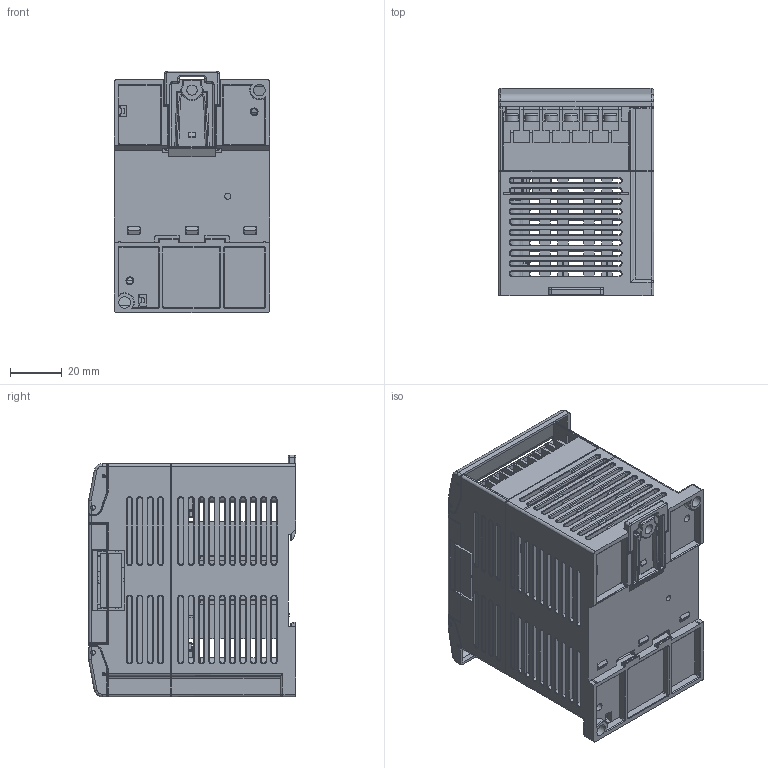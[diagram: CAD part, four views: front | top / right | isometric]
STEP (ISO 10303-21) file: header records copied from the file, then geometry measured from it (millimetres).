
FILE_DESCRIPTION((''),'2;1');
FILE_NAME('14P_ALL_ASM','2021-01-28T',('Jacky'),('ME Department of NTUST'),'PRO/ENGINEER BY PARAMETRIC TECHNOLOGY CORPORATION, 2014200','PRO/ENGINEER BY PARAMETRIC TECHNOLOGY CORPORATION, 2014200','');
FILE_SCHEMA(('CONFIG_CONTROL_DESIGN','GEOMETRIC_VALIDATION_PROPERTIES_MIM'));
Products named in the file (11): 14P_PCB-IO; TERMINAL_14P; 14P_PCB_ASM; 14P_BODY; 14P_JOIN; 14P_CV_UP; 14P_CV_TER; 14P_CV_PS; 14P_CV_COR_C; 14P_CV_ALL_ASM; 14P_ALL_ASM
Assembly tree (12 placements, depth 3):
  14P_ALL_ASM
    14P_PCB_ASM
      14P_PCB-IO
      TERMINAL_14P  x2
    14P_CV_ALL_ASM
      14P_BODY
      14P_JOIN
      14P_CV_UP
      14P_CV_TER  x2
      14P_CV_PS
      14P_CV_COR_C
Bounding box: 60 x 80.15 x 93.3 mm (x, y, z)
Volume: 106424.4 mm3; surface area: 113040.7 mm2
Topology: 10 solids, 10 shells, 3319 faces, 8850 edges, 5555 vertices
Faces by surface type: plane 1804, cylinder 1042, torus 306, sphere 123, bspline 40, cone 4
Entity records: 116009 total; most frequent: CARTESIAN_POINT 17867, DIRECTION 15574, ORIENTED_EDGE 15520, PRESENTATION_STYLE_ASSIGNMENT 7768, STYLED_ITEM 7768, CURVE_STYLE 7760, EDGE_CURVE 7760, VECTOR 5364
